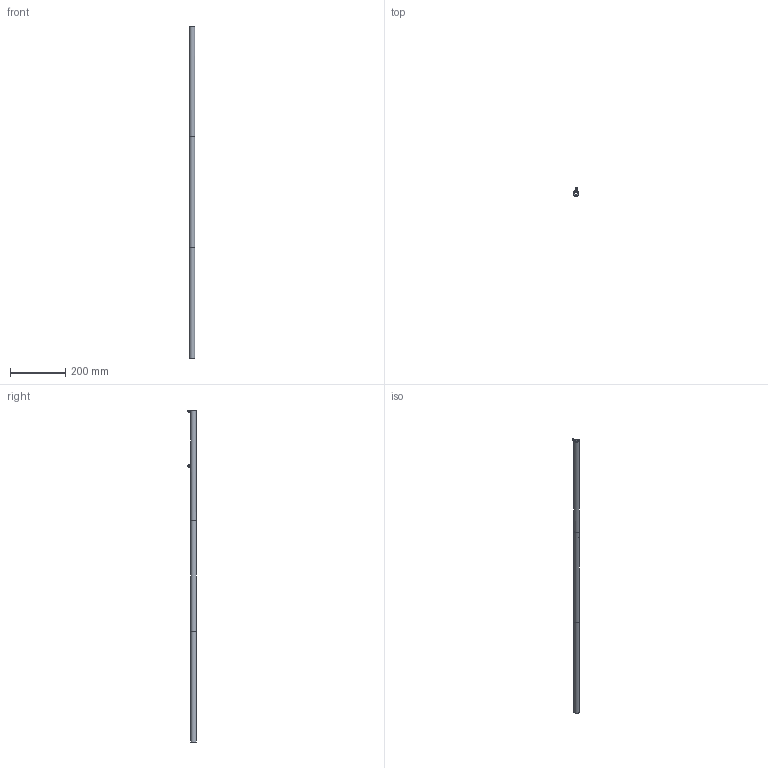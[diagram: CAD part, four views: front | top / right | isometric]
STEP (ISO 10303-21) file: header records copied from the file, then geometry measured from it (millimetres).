
FILE_DESCRIPTION(/* description */ (''),/* implementation_level */ '2;1');
FILE_NAME(/* name */ 'assieme_arm1.stp',/* time_stamp */ '2023-11-28T18:31:10+01:00',/* author */ ('filma'),/* organization */ (''),/* preprocessor_version */ 'ST-DEVELOPER v19.2',/* originating_system */ 'Autodesk Inventor 2024',/* authorisation */ '');
FILE_SCHEMA (('AUTOMOTIVE_DESIGN { 1 0 10303 214 3 1 1 }'));
Length unit declared in the file: millimetre
Products named in the file (4): assieme_arm; tube1; tube2; tube3
Assembly tree (3 placements, depth 2):
  assieme_arm
    tube1
    tube2
    tube3
Bounding box: 20 x 30 x 1200 mm (x, y, z)
Volume: 284349.3 mm3; surface area: 119011.8 mm2
Topology: 3 solids, 3 shells, 31 faces, 60 edges, 40 vertices
Faces by surface type: plane 17, cylinder 14
Full cylindrical faces by diameter (mm): 4 x2, 10 x3, 11.835 x2, 14 x2, 20 x3
Entity records: 978 total; most frequent: DIRECTION 168, CARTESIAN_POINT 138, ORIENTED_EDGE 120, AXIS2_PLACEMENT_3D 70, EDGE_CURVE 60, EDGE_LOOP 46, VERTEX_POINT 40, CIRCLE 32
